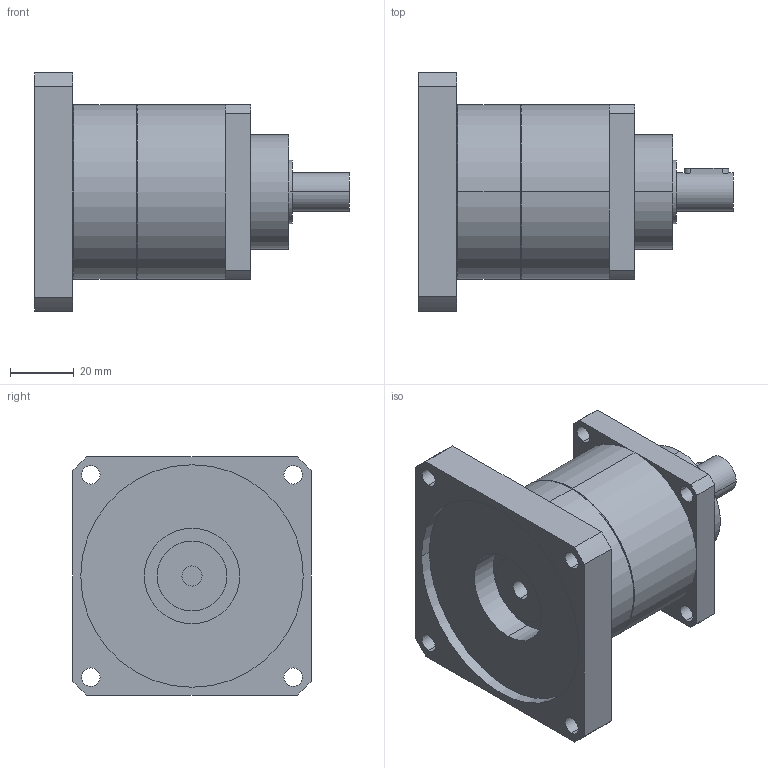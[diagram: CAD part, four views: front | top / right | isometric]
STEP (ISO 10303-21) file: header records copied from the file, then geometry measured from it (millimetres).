
FILE_DESCRIPTION(('CoCreate Modeling STEP Export'),'2;1');
FILE_NAME('GPT55_ig-3-4-5-7-10_12_B5A_6.35_P24.stp','2014-08-25T14:32:16',(''),(''),'CoCreate Modeling STEP processor for AP214 (Solid Model)','CoCreate Modeling 16.00C 25-Feb-2009 (C) Parametric Technology GmbH','');
FILE_SCHEMA(('AUTOMOTIVE_DESIGN { 1 0 10303 214 1 1 1 1 }'));
Length unit declared in the file: millimetre
Products named in the file (2): GPT55_ig-3-4-5-7-10_12_B5A_6.35_P24
Assembly tree (1 placements, depth 2):
  GPT55_ig-3-4-5-7-10_12_B5A_6.35_P24
    GPT55_ig-3-4-5-7-10_12_B5A_6.35_P24
Bounding box: 99 x 75 x 75 mm (x, y, z)
Volume: 198585.8 mm3; surface area: 31611.6 mm2
Topology: 1 solids, 1 shells, 77 faces, 197 edges, 132 vertices
Faces by surface type: cylinder 46, plane 27, cone 4
Entity records: 2480 total; most frequent: CARTESIAN_POINT 703, ORIENTED_EDGE 394, DIRECTION 318, EDGE_CURVE 197, VERTEX_POINT 132, AXIS2_PLACEMENT_3D 117, EDGE_LOOP 103, VECTOR 84
